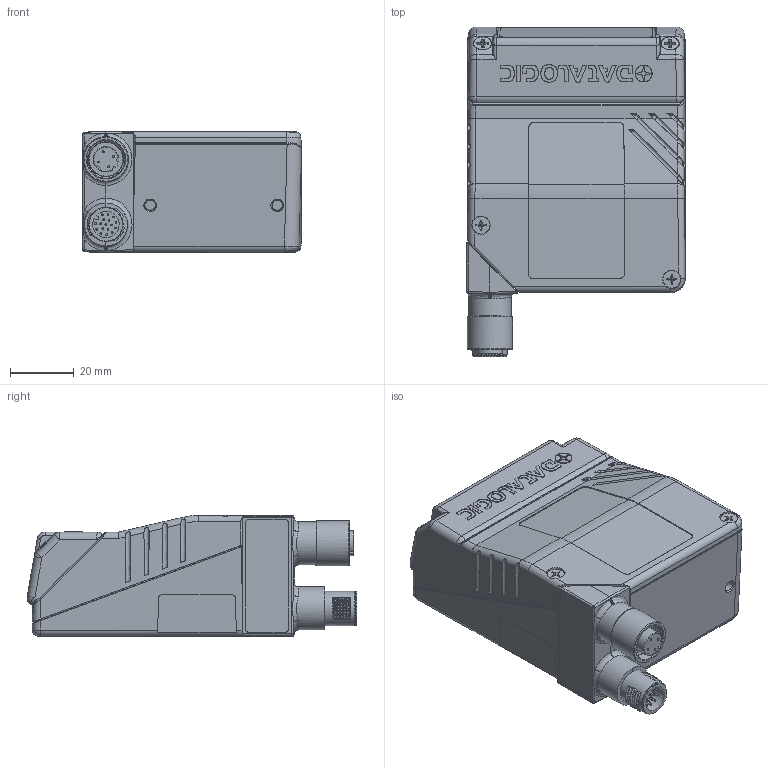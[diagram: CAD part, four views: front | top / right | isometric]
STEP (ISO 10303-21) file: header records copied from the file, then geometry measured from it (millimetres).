
FILE_DESCRIPTION(/* description */ (''),/* implementation_level */ '2;1');
FILE_NAME(/* name */ 'DSD0602.stp',/* time_stamp */ '2014-05-19T15:36:25+02:00',/* author */ (''),/* organization */ (''),/* preprocessor_version */ 'ST-DEVELOPER v11',/* originating_system */ 'SIEMENS PLM Software NX 7.5',/* authorisation */ '');
FILE_SCHEMA (('CONFIG_CONTROL_DESIGN'));
Products named in the file (1): acar76EDtnmz
Bounding box: 68.74 x 103.8 x 38.09 mm (x, y, z)
Volume: 59316.9 mm3; surface area: 58770.5 mm2
Topology: 120 solids, 122 shells, 5000 faces, 12841 edges, 8103 vertices
Faces by surface type: plane 2968, cylinder 862, bspline 656, extrusion 189, cone 140, torus 95, sphere 90
Full cylindrical faces by diameter (mm): 0.6 x42, 1 x10, 1.8 x2, 2.05 x4, 2.1 x2, 2.4 x2, 2.5 x12, 2.874 x2, 3 x2, 3.2 x8, 3.3 x4, 5.5 x2, 5.6 x2, 5.8 x2, 8.8 x1, 9.1 x1, 9.4 x1, 9.5 x3, 9.6 x1, 9.9 x1, 10.5 x1, 10.7 x1, 10.8 x1, 10.9 x5, 12.3 x1, 13.5 x2, 13.8 x1, 14 x2, 14.2 x1, 15 x1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
Entity records: 174581 total; most frequent: CARTESIAN_POINT 63310, ORIENTED_EDGE 24672, DIRECTION 19825, EDGE_CURVE 12339, VERTEX_POINT 7953, VECTOR 7171, LINE 6982, AXIS2_PLACEMENT_3D 6327
